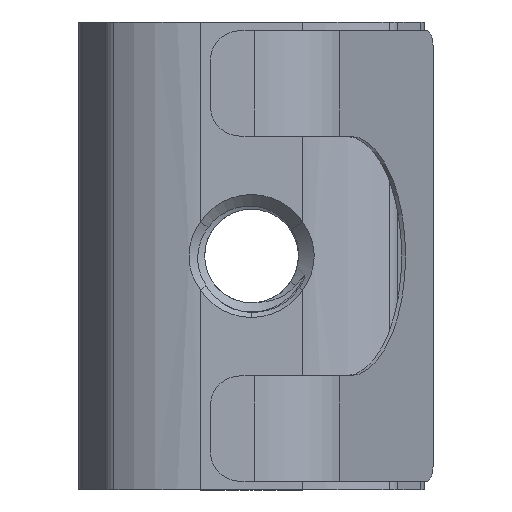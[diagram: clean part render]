
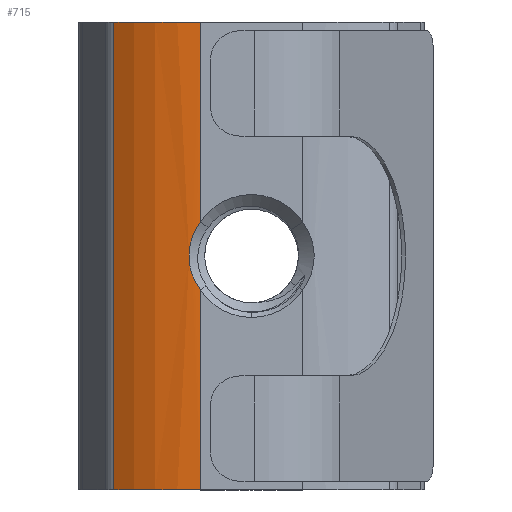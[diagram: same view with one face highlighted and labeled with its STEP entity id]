
A CAD part, front view. The second image highlights one B-rep face of the part: STEP entity #715.
In plain terms, the highlighted cylindrical face has radius 5 mm (diameter 10 mm), a partial arc.
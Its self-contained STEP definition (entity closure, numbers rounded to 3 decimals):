
#35 = CARTESIAN_POINT ( 'NONE',  ( -1.75, 0., 1.161 ) ) ;
#105 = CYLINDRICAL_SURFACE ( 'NONE', #3875, 5. ) ;
#311 = DIRECTION ( 'NONE',  ( -1., 0., 0. ) ) ;
#405 = ORIENTED_EDGE ( 'NONE', *, *, #2805, .T. ) ;
#715 = ADVANCED_FACE ( 'NONE', ( #2126 ), #105, .T. ) ;
#837 = VERTEX_POINT ( 'NONE', #1886 ) ;
#882 = CARTESIAN_POINT ( 'NONE',  ( -4.707, 0.968, 8. ) ) ;
#902 = ORIENTED_EDGE ( 'NONE', *, *, #3358, .T. ) ;
#910 = LINE ( 'NONE', #882, #4376 ) ;
#973 = DIRECTION ( 'NONE',  ( 0., 0., -1. ) ) ;
#1005 = DIRECTION ( 'NONE',  ( -1., 0., 0. ) ) ;
#1071 = EDGE_CURVE ( 'NONE', #837, #1651, #4878, .T. ) ;
#1209 = CARTESIAN_POINT ( 'NONE',  ( -2.139, 0.015, 0.1 ) ) ;
#1305 = CARTESIAN_POINT ( 'NONE',  ( -2.073, 0.01, 0.506 ) ) ;
#1370 = LINE ( 'NONE', #4655, #4091 ) ;
#1466 = EDGE_CURVE ( 'NONE', #4551, #4658, #1370, .T. ) ;
#1651 = VERTEX_POINT ( 'NONE', #5212 ) ;
#1702 = DIRECTION ( 'NONE',  ( 0., 0., 1. ) ) ;
#1809 = DIRECTION ( 'NONE',  ( 0., 0., -1. ) ) ;
#1886 = CARTESIAN_POINT ( 'NONE',  ( -1.75, 0., 8. ) ) ;
#1964 = CARTESIAN_POINT ( 'NONE',  ( -2.139, 0.015, -0.206 ) ) ;
#2019 = CARTESIAN_POINT ( 'NONE',  ( -4.707, 0.968, 8. ) ) ;
#2046 = CARTESIAN_POINT ( 'NONE',  ( -1.75, 0., 8. ) ) ;
#2103 = CARTESIAN_POINT ( 'NONE',  ( -1.75, 0., -8. ) ) ;
#2117 = VECTOR ( 'NONE', #2455, 1000. ) ;
#2126 = FACE_OUTER_BOUND ( 'NONE', #4727, .T. ) ;
#2455 = DIRECTION ( 'NONE',  ( 0., 0., -1. ) ) ;
#2553 = DIRECTION ( 'NONE',  ( 0., 0., -1. ) ) ;
#2742 = CARTESIAN_POINT ( 'NONE',  ( -1.876, 0., -0.99 ) ) ;
#2763 = CARTESIAN_POINT ( 'NONE',  ( -1.75, 5., -8. ) ) ;
#2805 = EDGE_CURVE ( 'NONE', #3863, #4642, #910, .T. ) ;
#2915 = CARTESIAN_POINT ( 'NONE',  ( -4.707, 0.968, -8. ) ) ;
#2970 = DIRECTION ( 'NONE',  ( -1., 0., 0. ) ) ;
#3141 = ORIENTED_EDGE ( 'NONE', *, *, #1071, .F. ) ;
#3159 = DIRECTION ( 'NONE',  ( 0., 0., 1. ) ) ;
#3175 = AXIS2_PLACEMENT_3D ( 'NONE', #2763, #3159, #311 ) ;
#3195 = CARTESIAN_POINT ( 'NONE',  ( -1.75, 0., -1.161 ) ) ;
#3221 = ORIENTED_EDGE ( 'NONE', *, *, #4720, .F. ) ;
#3336 = CARTESIAN_POINT ( 'NONE',  ( -1.75, 5., 8. ) ) ;
#3358 = EDGE_CURVE ( 'NONE', #4642, #4658, #4296, .T. ) ;
#3548 = B_SPLINE_CURVE_WITH_KNOTS ( 'NONE', 3,
 ( #3195, #2742, #3651, #4900, #1964, #1209, #3598, #5259, #1305, #4620, #4534, #35 ),
 .UNSPECIFIED., .F., .F.,
 ( 4, 2, 2, 2, 2, 4 ),
 ( 0., 0.25, 0.5, 0.625, 0.75, 1. ),
 .UNSPECIFIED. ) ;
#3598 = CARTESIAN_POINT ( 'NONE',  ( -2.131, 0.014, 0.204 ) ) ;
#3651 = CARTESIAN_POINT ( 'NONE',  ( -1.973, 0.005, -0.804 ) ) ;
#3734 = CARTESIAN_POINT ( 'NONE',  ( -1.75, 5., 8. ) ) ;
#3863 = VERTEX_POINT ( 'NONE', #2019 ) ;
#3875 = AXIS2_PLACEMENT_3D ( 'NONE', #3734, #1809, #1005 ) ;
#3890 = EDGE_CURVE ( 'NONE', #4551, #1651, #3548, .T. ) ;
#3976 = CARTESIAN_POINT ( 'NONE',  ( -1.75, 0., -1.161 ) ) ;
#4091 = VECTOR ( 'NONE', #973, 1000. ) ;
#4264 = AXIS2_PLACEMENT_3D ( 'NONE', #3336, #1702, #2970 ) ;
#4296 = CIRCLE ( 'NONE', #3175, 5. ) ;
#4376 = VECTOR ( 'NONE', #2553, 1000. ) ;
#4534 = CARTESIAN_POINT ( 'NONE',  ( -1.877, 0., 0.989 ) ) ;
#4551 = VERTEX_POINT ( 'NONE', #3976 ) ;
#4579 = ORIENTED_EDGE ( 'NONE', *, *, #3890, .T. ) ;
#4601 = CIRCLE ( 'NONE', #4264, 5. ) ;
#4620 = CARTESIAN_POINT ( 'NONE',  ( -1.975, 0.005, 0.801 ) ) ;
#4642 = VERTEX_POINT ( 'NONE', #2915 ) ;
#4655 = CARTESIAN_POINT ( 'NONE',  ( -1.75, 0., 8. ) ) ;
#4658 = VERTEX_POINT ( 'NONE', #2103 ) ;
#4720 = EDGE_CURVE ( 'NONE', #3863, #837, #4601, .T. ) ;
#4727 = EDGE_LOOP ( 'NONE', ( #5051, #4579, #3141, #3221, #405, #902 ) ) ;
#4878 = LINE ( 'NONE', #2046, #2117 ) ;
#4900 = CARTESIAN_POINT ( 'NONE',  ( -2.105, 0.012, -0.41 ) ) ;
#5051 = ORIENTED_EDGE ( 'NONE', *, *, #1466, .F. ) ;
#5212 = CARTESIAN_POINT ( 'NONE',  ( -1.75, 0., 1.161 ) ) ;
#5259 = CARTESIAN_POINT ( 'NONE',  ( -2.098, 0.012, 0.407 ) ) ;
